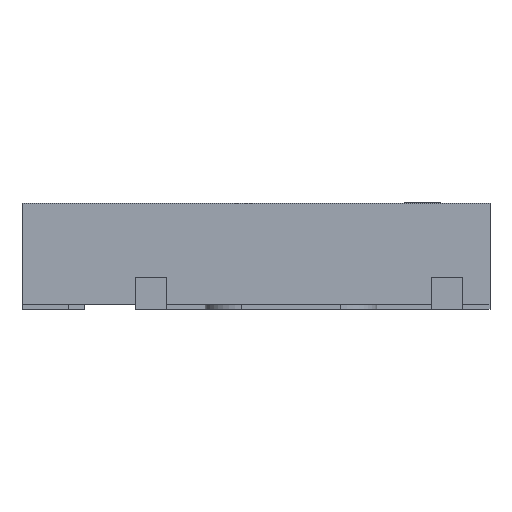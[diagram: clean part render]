
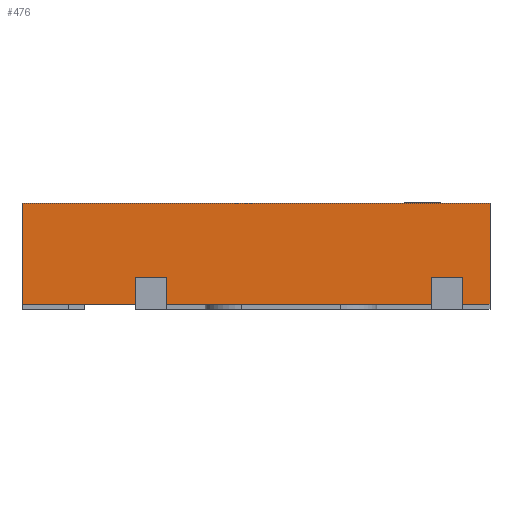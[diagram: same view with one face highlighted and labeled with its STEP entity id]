
A CAD part, left-side view. The second image highlights one B-rep face of the part: STEP entity #476.
In plain terms, the highlighted planar face has unit normal (-1, 0, 0).
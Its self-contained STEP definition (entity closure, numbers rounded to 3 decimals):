
#131 = CARTESIAN_POINT ( 'NONE',  ( -1.5, 0.575, -0.65 ) ) ;
#250 = VECTOR ( 'NONE', #7982, 1000. ) ;
#359 = DIRECTION ( 'NONE',  ( 0., -1., 0. ) ) ;
#476 = ADVANCED_FACE ( 'NONE', ( #8288 ), #13699, .T. ) ;
#737 = CARTESIAN_POINT ( 'NONE',  ( -1.5, -1.125, -0.48 ) ) ;
#952 = DIRECTION ( 'NONE',  ( 0., -1., 0. ) ) ;
#1150 = DIRECTION ( 'NONE',  ( 0., 1., 0. ) ) ;
#1316 = EDGE_LOOP ( 'NONE', ( #15176, #10726, #10212, #17362, #1929, #7565, #16041, #5134, #12152, #10986, #1614, #11066 ) ) ;
#1354 = VECTOR ( 'NONE', #7735, 1000. ) ;
#1373 = LINE ( 'NONE', #6774, #11706 ) ;
#1614 = ORIENTED_EDGE ( 'NONE', *, *, #10318, .T. ) ;
#1687 = CARTESIAN_POINT ( 'NONE',  ( -1.5, 0.775, -0.48 ) ) ;
#1922 = DIRECTION ( 'NONE',  ( 0., 0., -1. ) ) ;
#1929 = ORIENTED_EDGE ( 'NONE', *, *, #6524, .T. ) ;
#1986 = DIRECTION ( 'NONE',  ( 0., -1., 0. ) ) ;
#2083 = VERTEX_POINT ( 'NONE', #15893 ) ;
#2126 = CARTESIAN_POINT ( 'NONE',  ( -1.5, 1.5, 0. ) ) ;
#2283 = CARTESIAN_POINT ( 'NONE',  ( -1.5, 1.5, -0.65 ) ) ;
#2309 = CARTESIAN_POINT ( 'NONE',  ( -1.5, 0.575, -0.48 ) ) ;
#2408 = EDGE_CURVE ( 'NONE', #14590, #17259, #10393, .T. ) ;
#2454 = LINE ( 'NONE', #7870, #10859 ) ;
#2565 = CARTESIAN_POINT ( 'NONE',  ( -1.5, -1.125, -0.48 ) ) ;
#2869 = VERTEX_POINT ( 'NONE', #7428 ) ;
#3251 = VERTEX_POINT ( 'NONE', #131 ) ;
#3316 = CARTESIAN_POINT ( 'NONE',  ( -1.5, 0.775, -0.65 ) ) ;
#3336 = LINE ( 'NONE', #8772, #9133 ) ;
#3766 = EDGE_CURVE ( 'NONE', #3251, #7350, #8751, .T. ) ;
#4086 = VECTOR ( 'NONE', #7087, 1000. ) ;
#4385 = DIRECTION ( 'NONE',  ( 0., 0., 1. ) ) ;
#4511 = CARTESIAN_POINT ( 'NONE',  ( -1.5, 0.575, -0.48 ) ) ;
#5134 = ORIENTED_EDGE ( 'NONE', *, *, #7932, .T. ) ;
#5194 = LINE ( 'NONE', #10587, #5767 ) ;
#5767 = VECTOR ( 'NONE', #15997, 1000. ) ;
#6276 = VECTOR ( 'NONE', #1150, 1000. ) ;
#6524 = EDGE_CURVE ( 'NONE', #2869, #2083, #1373, .T. ) ;
#6774 = CARTESIAN_POINT ( 'NONE',  ( -1.5, -1.5, -0.65 ) ) ;
#6919 = VECTOR ( 'NONE', #359, 1000. ) ;
#7087 = DIRECTION ( 'NONE',  ( 0., 0., -1. ) ) ;
#7091 = LINE ( 'NONE', #12486, #6919 ) ;
#7350 = VERTEX_POINT ( 'NONE', #12766 ) ;
#7428 = CARTESIAN_POINT ( 'NONE',  ( -1.5, -1.5, -0.65 ) ) ;
#7438 = CARTESIAN_POINT ( 'NONE',  ( -1.5, -1.325, -0.65 ) ) ;
#7565 = ORIENTED_EDGE ( 'NONE', *, *, #7619, .F. ) ;
#7619 = EDGE_CURVE ( 'NONE', #9384, #2083, #7091, .T. ) ;
#7676 = LINE ( 'NONE', #13084, #10329 ) ;
#7735 = DIRECTION ( 'NONE',  ( 0., 1., 0. ) ) ;
#7870 = CARTESIAN_POINT ( 'NONE',  ( -1.5, -1.5, -0.65 ) ) ;
#7932 = EDGE_CURVE ( 'NONE', #13829, #10536, #7676, .T. ) ;
#7982 = DIRECTION ( 'NONE',  ( 0., 0., -1. ) ) ;
#8288 = FACE_OUTER_BOUND ( 'NONE', #1316, .T. ) ;
#8670 = LINE ( 'NONE', #14070, #16035 ) ;
#8751 = LINE ( 'NONE', #14140, #9104 ) ;
#8772 = CARTESIAN_POINT ( 'NONE',  ( -1.5, 0.575, -0.48 ) ) ;
#8799 = CARTESIAN_POINT ( 'NONE',  ( -1.5, 0.775, -0.48 ) ) ;
#9104 = VECTOR ( 'NONE', #1986, 1000. ) ;
#9133 = VECTOR ( 'NONE', #14162, 1000. ) ;
#9384 = VERTEX_POINT ( 'NONE', #2126 ) ;
#9481 = EDGE_CURVE ( 'NONE', #12842, #14256, #17255, .T. ) ;
#10212 = ORIENTED_EDGE ( 'NONE', *, *, #15836, .T. ) ;
#10318 = EDGE_CURVE ( 'NONE', #14590, #3251, #3336, .T. ) ;
#10329 = VECTOR ( 'NONE', #952, 1000. ) ;
#10393 = LINE ( 'NONE', #2309, #1354 ) ;
#10536 = VERTEX_POINT ( 'NONE', #3316 ) ;
#10587 = CARTESIAN_POINT ( 'NONE',  ( -1.5, 1.5, -0.65 ) ) ;
#10633 = EDGE_CURVE ( 'NONE', #13829, #9384, #5194, .T. ) ;
#10726 = ORIENTED_EDGE ( 'NONE', *, *, #9481, .F. ) ;
#10859 = VECTOR ( 'NONE', #13270, 1000. ) ;
#10963 = EDGE_CURVE ( 'NONE', #17259, #10536, #13819, .T. ) ;
#10986 = ORIENTED_EDGE ( 'NONE', *, *, #2408, .F. ) ;
#11028 = VERTEX_POINT ( 'NONE', #7438 ) ;
#11066 = ORIENTED_EDGE ( 'NONE', *, *, #3766, .T. ) ;
#11115 = CARTESIAN_POINT ( 'NONE',  ( -1.5, -1.5, -0.65 ) ) ;
#11706 = VECTOR ( 'NONE', #12181, 1000. ) ;
#12152 = ORIENTED_EDGE ( 'NONE', *, *, #10963, .F. ) ;
#12181 = DIRECTION ( 'NONE',  ( 0., 0., 1. ) ) ;
#12486 = CARTESIAN_POINT ( 'NONE',  ( -1.5, -1.5, 0. ) ) ;
#12766 = CARTESIAN_POINT ( 'NONE',  ( -1.5, -1.125, -0.65 ) ) ;
#12842 = VERTEX_POINT ( 'NONE', #16988 ) ;
#13084 = CARTESIAN_POINT ( 'NONE',  ( -1.5, -1.5, -0.65 ) ) ;
#13213 = EDGE_CURVE ( 'NONE', #11028, #2869, #2454, .T. ) ;
#13270 = DIRECTION ( 'NONE',  ( 0., -1., 0. ) ) ;
#13293 = CARTESIAN_POINT ( 'NONE',  ( -1.5, -1.325, -0.48 ) ) ;
#13699 = PLANE ( 'NONE',  #14844 ) ;
#13819 = LINE ( 'NONE', #1687, #4086 ) ;
#13829 = VERTEX_POINT ( 'NONE', #2283 ) ;
#14070 = CARTESIAN_POINT ( 'NONE',  ( -1.5, -1.325, -0.48 ) ) ;
#14140 = CARTESIAN_POINT ( 'NONE',  ( -1.5, -1.5, -0.65 ) ) ;
#14162 = DIRECTION ( 'NONE',  ( 0., 0., -1. ) ) ;
#14256 = VERTEX_POINT ( 'NONE', #737 ) ;
#14423 = EDGE_CURVE ( 'NONE', #14256, #7350, #14712, .T. ) ;
#14590 = VERTEX_POINT ( 'NONE', #4511 ) ;
#14712 = LINE ( 'NONE', #2565, #250 ) ;
#14844 = AXIS2_PLACEMENT_3D ( 'NONE', #11115, #16526, #4385 ) ;
#15176 = ORIENTED_EDGE ( 'NONE', *, *, #14423, .F. ) ;
#15836 = EDGE_CURVE ( 'NONE', #12842, #11028, #8670, .T. ) ;
#15893 = CARTESIAN_POINT ( 'NONE',  ( -1.5, -1.5, 0. ) ) ;
#15997 = DIRECTION ( 'NONE',  ( 0., 0., 1. ) ) ;
#16035 = VECTOR ( 'NONE', #1922, 1000. ) ;
#16041 = ORIENTED_EDGE ( 'NONE', *, *, #10633, .F. ) ;
#16526 = DIRECTION ( 'NONE',  ( -1., 0., 0. ) ) ;
#16988 = CARTESIAN_POINT ( 'NONE',  ( -1.5, -1.325, -0.48 ) ) ;
#17255 = LINE ( 'NONE', #13293, #6276 ) ;
#17259 = VERTEX_POINT ( 'NONE', #8799 ) ;
#17362 = ORIENTED_EDGE ( 'NONE', *, *, #13213, .T. ) ;
